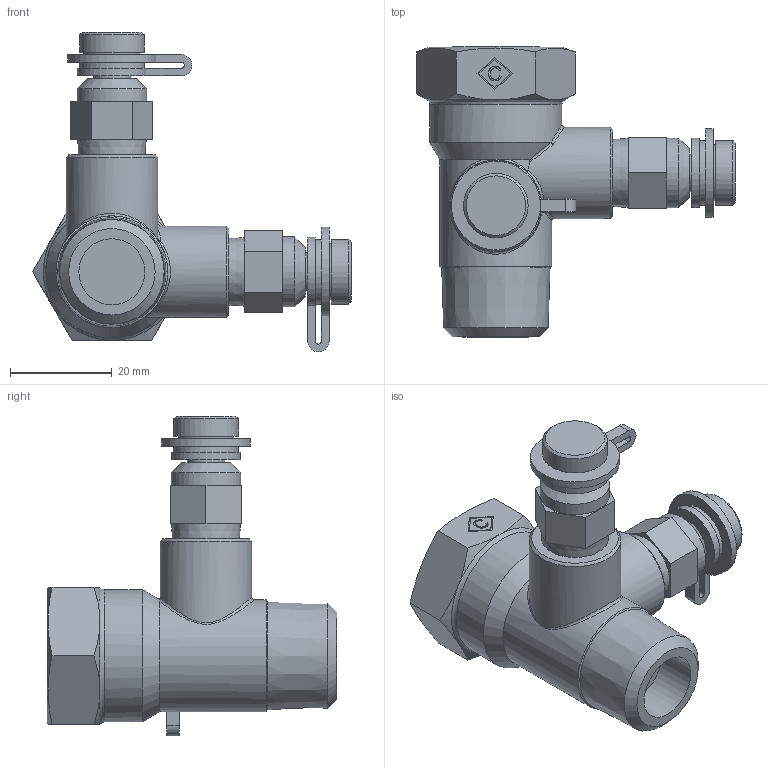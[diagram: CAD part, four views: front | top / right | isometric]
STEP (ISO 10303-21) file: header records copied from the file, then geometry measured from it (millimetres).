
FILE_DESCRIPTION((''),'2;1');
FILE_NAME('P:\Fastrack\53972_CRANE 3D\Workspace\D901_1-2in\D901_1-2in.stp','2011-01-11T15:01:35',('btaylor'),(''),'Autodesk Inventor 2008','Autodesk Inventor 2008','');
FILE_SCHEMA(('AUTOMOTIVE_DESIGN { 1 0 10303 214 1 1 1 1 }'));
Length unit declared in the file: millimetre
Products named in the file (1): D901_1-2in
Bounding box: 62.69 x 57 x 62.83 mm (x, y, z)
Volume: 36714.3 mm3; surface area: 10690.7 mm2
Topology: 1 solids, 1 shells, 129 faces, 296 edges, 188 vertices
Faces by surface type: plane 65, cylinder 25, bspline 20, cone 19
Full cylindrical faces by diameter (mm): 7.4 x2, 11 x2, 12.7 x2, 13.7 x2, 18 x2, 22 x1, 26 x1
Entity records: 5254 total; most frequent: CARTESIAN_POINT 2463, ORIENTED_EDGE 516, DIRECTION 496, EDGE_CURVE 258, AXIS2_PLACEMENT_3D 190, EDGE_LOOP 179, VERTEX_POINT 177, STYLED_ITEM 130
